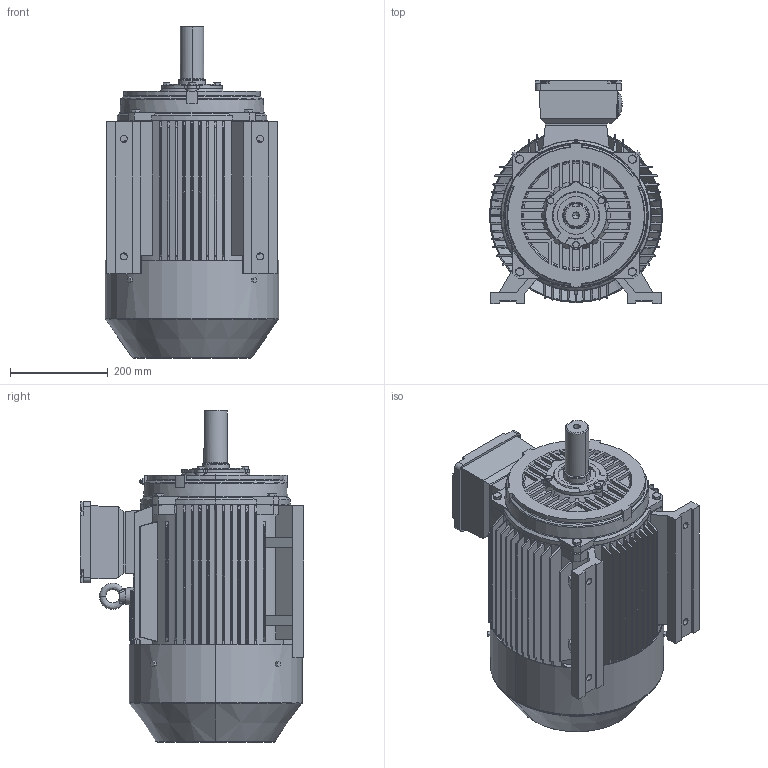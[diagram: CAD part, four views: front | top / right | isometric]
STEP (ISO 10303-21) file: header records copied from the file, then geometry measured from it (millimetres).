
FILE_DESCRIPTION (( 'STEP AP203' ), '1' );
FILE_NAME ('TE3-180M-2 B3上2018.STEP', '2019-11-19T03:15:43', ( '微软用户' ), ( '微软中国' ), 'SwSTEP 2.0', 'SolidWorks 2012', '' );
FILE_SCHEMA (( 'CONFIG_CONTROL_DESIGN' ));
Length unit declared in the file: millimetre
Products named in the file (14): 5EJ.354.484GX160~180P24諉盄碟; hexagon head bolts-full thread gb_GB_FASTENER_BOLT_STBAB A M6X12-N; 8EJ.353.10053GX160~180P24諉盄碟裔; 8EJ.354.593Y2-160~180P24諉盄碟釱; eyebolts gb_GB_FASTENER_SCREWS_FRS M12-N; YX3-180 粣ㄗ粣扥ㄘ; YX3-180-2 粣創俋裔; YX3-180 瑞欶; 8SLJ.013.00129Y2-180-2粣扥傷傷裔; Y2-180M 001儂釱; TE3-180M-2 B3奻2018; 蚐戚; hexagon head bolts gb_GB_FASTENER_BOLT_SB A M8X40-N; hexagon head bolts-full thread gb_GB_FASTENER_BOLT_STBAB A M10X20-N
Assembly tree (22 placements, depth 3):
  TE3-180M-2 B3奻2018
    Y2-180M 001儂釱
    8SLJ.013.00129Y2-180-2粣扥傷傷裔
    YX3-180 瑞欶
    YX3-180-2 粣創俋裔
    YX3-180 粣ㄗ粣扥ㄘ
    eyebolts gb_GB_FASTENER_SCREWS_FRS M12-N
    5EJ.354.484GX160~180P24諉盄碟  x2
      8EJ.354.593Y2-160~180P24諉盄碟釱
      8EJ.353.10053GX160~180P24諉盄碟裔
      hexagon head bolts-full thread gb_GB_FASTENER_BOLT_STBAB A M6X12-N
    hexagon head bolts-full thread gb_GB_FASTENER_BOLT_STBAB A M10X20-N  x4
    hexagon head bolts gb_GB_FASTENER_BOLT_SB A M8X40-N  x3
    蚐戚
Bounding box: 355 x 457 x 680 mm (x, y, z)
Volume: 33636100.5 mm3; surface area: 2619635.2 mm2
Topology: 27 solids, 29 shells, 3457 faces, 9018 edges, 5920 vertices
Faces by surface type: plane 1763, cylinder 1216, cone 354, torus 80, bspline 38, sphere 6
Entity records: 101444 total; most frequent: CARTESIAN_POINT 23762, ORIENTED_EDGE 15942, DIRECTION 15871, EDGE_CURVE 7971, AXIS2_PLACEMENT_3D 5648, VERTEX_POINT 5267, LINE 4575, VECTOR 4575
